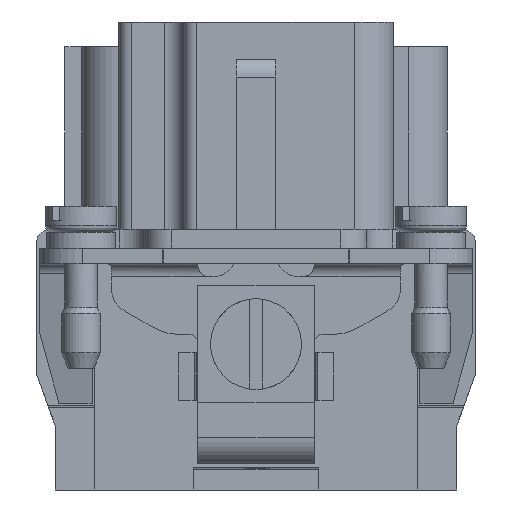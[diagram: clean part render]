
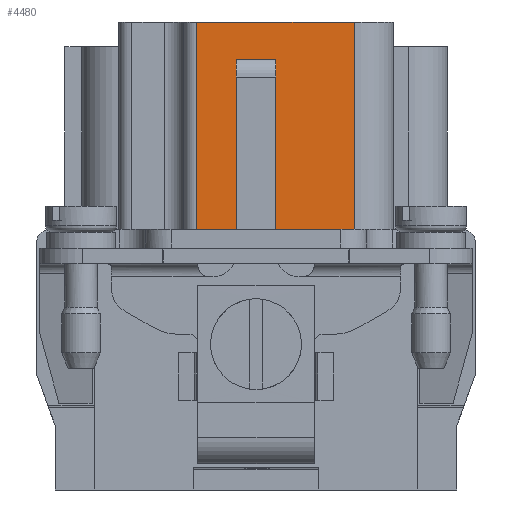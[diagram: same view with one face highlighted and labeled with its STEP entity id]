
A CAD part, left-side view. The second image highlights one B-rep face of the part: STEP entity #4480.
In plain terms, the highlighted planar face has unit normal (-1, 0, 0).
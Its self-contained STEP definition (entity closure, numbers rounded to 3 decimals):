
#3364=FACE_OUTER_BOUND('',#8372,.T.);
#4480=ADVANCED_FACE('',(#3364),#6220,.F.);
#6220=PLANE('',#35521);
#8372=EDGE_LOOP('',(#11145,#11146,#11147,#11148,#11149,#11150,#11151,#11152));
#11145=ORIENTED_EDGE('',*,*,#21719,.F.);
#11146=ORIENTED_EDGE('',*,*,#21720,.T.);
#11147=ORIENTED_EDGE('',*,*,#21721,.F.);
#11148=ORIENTED_EDGE('',*,*,#21533,.F.);
#11149=ORIENTED_EDGE('',*,*,#21722,.T.);
#11150=ORIENTED_EDGE('',*,*,#21723,.F.);
#11151=ORIENTED_EDGE('',*,*,#21724,.T.);
#11152=ORIENTED_EDGE('',*,*,#21537,.F.);
#18731=VERTEX_POINT('',#46920);
#18732=VERTEX_POINT('',#46922);
#18735=VERTEX_POINT('',#46928);
#18736=VERTEX_POINT('',#46930);
#18905=VERTEX_POINT('',#47321);
#18906=VERTEX_POINT('',#47323);
#18907=VERTEX_POINT('',#47326);
#18908=VERTEX_POINT('',#47328);
#21533=EDGE_CURVE('',#18731,#18732,#29265,.T.);
#21537=EDGE_CURVE('',#18735,#18736,#29269,.T.);
#21719=EDGE_CURVE('',#18905,#18735,#29411,.T.);
#21720=EDGE_CURVE('',#18905,#18906,#29412,.T.);
#21721=EDGE_CURVE('',#18732,#18906,#29413,.T.);
#21722=EDGE_CURVE('',#18731,#18907,#29414,.T.);
#21723=EDGE_CURVE('',#18908,#18907,#29415,.T.);
#21724=EDGE_CURVE('',#18908,#18736,#29416,.T.);
#29265=LINE('',#46921,#31550);
#29269=LINE('',#46929,#31554);
#29411=LINE('',#47320,#31696);
#29412=LINE('',#47322,#31697);
#29413=LINE('',#47324,#31698);
#29414=LINE('',#47325,#31699);
#29415=LINE('',#47327,#31700);
#29416=LINE('',#47329,#31701);
#31550=VECTOR('',#38066,1.);
#31554=VECTOR('',#38070,1.);
#31696=VECTOR('',#38308,1.);
#31697=VECTOR('',#38309,1.);
#31698=VECTOR('',#38310,1.);
#31699=VECTOR('',#38311,1.);
#31700=VECTOR('',#38312,1.);
#31701=VECTOR('',#38313,1.);
#35521=AXIS2_PLACEMENT_3D('',#47330,#38314,#38315);
#38066=DIRECTION('',(0.,1.,0.));
#38070=DIRECTION('',(0.,1.,0.));
#38308=DIRECTION('',(0.,0.,-1.));
#38309=DIRECTION('',(0.,-1.,0.));
#38310=DIRECTION('',(0.,0.,1.));
#38311=DIRECTION('',(0.,0.,1.));
#38312=DIRECTION('',(0.,-1.,0.));
#38313=DIRECTION('',(0.,0.,-1.));
#38314=DIRECTION('',(1.,0.,0.));
#38315=DIRECTION('',(0.,0.,-1.));
#46920=CARTESIAN_POINT('',(-32.25,-7.575,2.65));
#46921=CARTESIAN_POINT('',(-32.25,-6.55,2.65));
#46922=CARTESIAN_POINT('',(-32.25,-1.525,2.65));
#46928=CARTESIAN_POINT('',(-32.25,1.525,2.65));
#46929=CARTESIAN_POINT('',(-32.25,-6.55,2.65));
#46930=CARTESIAN_POINT('',(-32.25,4.575,2.65));
#47320=CARTESIAN_POINT('',(-32.25,1.525,18.65));
#47321=CARTESIAN_POINT('',(-32.25,1.525,15.786));
#47322=CARTESIAN_POINT('',(-32.25,0.,15.786));
#47323=CARTESIAN_POINT('',(-32.25,-1.525,15.786));
#47324=CARTESIAN_POINT('',(-32.25,-1.525,18.65));
#47325=CARTESIAN_POINT('',(-32.25,-7.575,18.65));
#47326=CARTESIAN_POINT('',(-32.25,-7.575,18.65));
#47327=CARTESIAN_POINT('',(-32.25,5.575,18.65));
#47328=CARTESIAN_POINT('',(-32.25,4.575,18.65));
#47329=CARTESIAN_POINT('',(-32.25,4.575,18.65));
#47330=CARTESIAN_POINT('',(-32.25,5.575,18.65));
